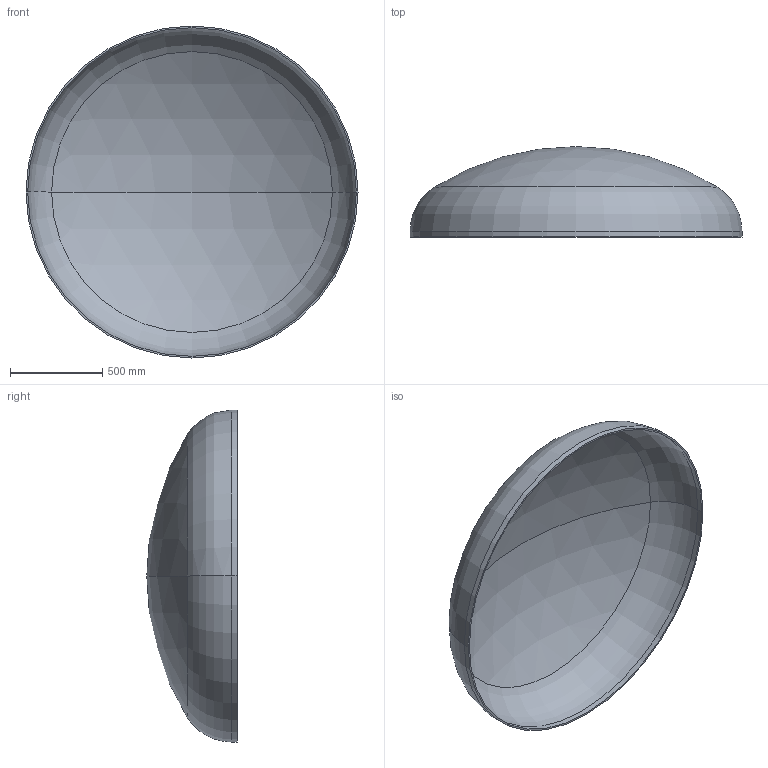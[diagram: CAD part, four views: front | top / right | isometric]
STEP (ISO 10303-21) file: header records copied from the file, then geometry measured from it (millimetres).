
FILE_DESCRIPTION (( 'STEP AP203' ), '1' );
FILE_NAME ('DIN 28013 Korbbogenform_-_Boden DIN 28013 - 1800 x 30 - I - s=9.step', '2016-07-01T12:15:53', ( '' ), ( '' ), 'SwSTEP 2.0', 'SolidWorks 2013', '' );
FILE_SCHEMA (( 'CONFIG_CONTROL_DESIGN' ));
Length unit declared in the file: millimetre
Products named in the file (1): DIN 28013 Korbbogenform_-_Boden DIN 28013 - 1800 x 30 - I - s=9
Bounding box: 1800 x 490.18 x 1800 mm (x, y, z)
Volume: 32981833.9 mm3; surface area: 7380102.5 mm2
Topology: 1 solids, 1 shells, 13 faces, 24 edges, 14 vertices
Faces by surface type: torus 4, cylinder 4, sphere 4, plane 1
Entity records: 407 total; most frequent: DIRECTION 72, CARTESIAN_POINT 52, ORIENTED_EDGE 48, AXIS2_PLACEMENT_3D 34, EDGE_CURVE 24, CIRCLE 20, EDGE_LOOP 14, VERTEX_POINT 14
